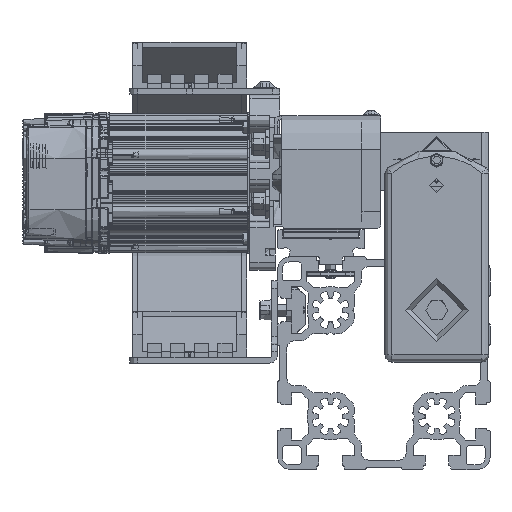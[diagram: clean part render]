
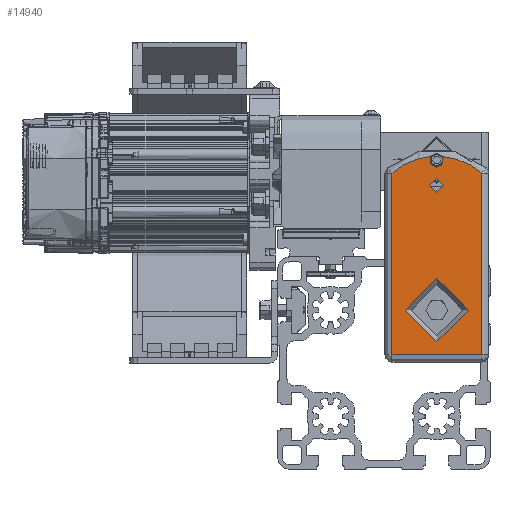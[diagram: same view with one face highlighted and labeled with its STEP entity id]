
A CAD part, front view. The second image highlights one B-rep face of the part: STEP entity #14940.
In plain terms, the highlighted planar face has unit normal (0, -1, 0).
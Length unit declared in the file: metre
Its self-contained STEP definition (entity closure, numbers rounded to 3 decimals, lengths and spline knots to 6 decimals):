
#14940 = ADVANCED_FACE( '', ( #32887, #32888, #32889 ), #32890, .T. );
#32887 = FACE_OUTER_BOUND( '', #81466, .T. );
#32888 = FACE_BOUND( '', #81467, .T. );
#32889 = FACE_BOUND( '', #81468, .T. );
#32890 = PLANE( '', #81469 );
#81466 = EDGE_LOOP( '', ( #152836, #152837, #152838, #152839, #152840, #152841 ) );
#81467 = EDGE_LOOP( '', ( #152842 ) );
#81468 = EDGE_LOOP( '', ( #152843 ) );
#81469 = AXIS2_PLACEMENT_3D( '', #152844, #152845, #152846 );
#152836 = ORIENTED_EDGE( '', *, *, #193683, .T. );
#152837 = ORIENTED_EDGE( '', *, *, #192709, .T. );
#152838 = ORIENTED_EDGE( '', *, *, #193686, .T. );
#152839 = ORIENTED_EDGE( '', *, *, #199848, .T. );
#152840 = ORIENTED_EDGE( '', *, *, #200365, .T. );
#152841 = ORIENTED_EDGE( '', *, *, #200366, .T. );
#152842 = ORIENTED_EDGE( '', *, *, #200367, .T. );
#152843 = ORIENTED_EDGE( '', *, *, #200368, .F. );
#152844 = CARTESIAN_POINT( '', ( -0.04064, -0.004762, -0.022 ) );
#152845 = DIRECTION( '', ( 0., -1., 0. ) );
#152846 = DIRECTION( '', ( 0., 0., -1. ) );
#192709 = EDGE_CURVE( '', #220325, #220326, #220328, .T. );
#193683 = EDGE_CURVE( '', #221914, #220325, #221915, .T. );
#193686 = EDGE_CURVE( '', #220326, #221917, #221919, .T. );
#199848 = EDGE_CURVE( '', #221917, #231452, #231454, .T. );
#200365 = EDGE_CURVE( '', #231452, #232187, #232188, .T. );
#200366 = EDGE_CURVE( '', #232187, #221914, #232189, .T. );
#200367 = EDGE_CURVE( '', #232190, #232190, #232191, .T. );
#200368 = EDGE_CURVE( '', #232192, #232192, #232193, .T. );
#220325 = VERTEX_POINT( '', #271144 );
#220326 = VERTEX_POINT( '', #271145 );
#220328 = CIRCLE( '', #271168, 0.003 );
#221914 = VERTEX_POINT( '', #274909 );
#221915 = CIRCLE( '', #274910, 0.02875 );
#221917 = VERTEX_POINT( '', #274912 );
#221919 = CIRCLE( '', #274914, 0.02875 );
#231452 = VERTEX_POINT( '', #298231 );
#231454 = LINE( '', #298233, #298234 );
#232187 = VERTEX_POINT( '', #300062 );
#232188 = LINE( '', #300063, #300064 );
#232189 = LINE( '', #300065, #300066 );
#232190 = VERTEX_POINT( '', #300067 );
#232191 = CIRCLE( '', #300068, 0.003 );
#232192 = VERTEX_POINT( '', #300069 );
#232193 = CIRCLE( '', #300070, 0.01344 );
#271144 = CARTESIAN_POINT( '', ( -0.046381, -0.004763, 0.002586 ) );
#271145 = CARTESIAN_POINT( '', ( -0.046381, -0.004763, -0.002586 ) );
#271168 = AXIS2_PLACEMENT_3D( '', #339137, #339138, #339139 );
#274909 = CARTESIAN_POINT( '', ( -0.039324, -0.004763, 0.019 ) );
#274910 = AXIS2_PLACEMENT_3D( '', #340389, #340390, #340391 );
#274912 = CARTESIAN_POINT( '', ( -0.039324, -0.004763, -0.019 ) );
#274914 = AXIS2_PLACEMENT_3D( '', #340398, #340399, #340400 );
#298231 = CARTESIAN_POINT( '', ( 0.03764, -0.004763, -0.019 ) );
#298233 = CARTESIAN_POINT( '', ( 0.03764, -0.004763, -0.019 ) );
#298234 = VECTOR( '', #348469, 1. );
#300062 = CARTESIAN_POINT( '', ( 0.03764, -0.004763, 0.019 ) );
#300063 = CARTESIAN_POINT( '', ( 0.03764, -0.004763, 0.019 ) );
#300064 = VECTOR( '', #349128, 1. );
#300065 = CARTESIAN_POINT( '', ( -0.039324, -0.004763, 0.019 ) );
#300066 = VECTOR( '', #349129, 1. );
#300067 = CARTESIAN_POINT( '', ( -0.03729, -0.004762, 0. ) );
#300068 = AXIS2_PLACEMENT_3D( '', #349130, #349131, #349132 );
#300069 = CARTESIAN_POINT( '', ( 0.03208, -0.004763, 0. ) );
#300070 = AXIS2_PLACEMENT_3D( '', #349133, #349134, #349135 );
#339137 = CARTESIAN_POINT( '', ( -0.04486, -0.004763, 0. ) );
#339138 = DIRECTION( '', ( 0., 1., 0. ) );
#339139 = DIRECTION( '', ( -1., 0., 0. ) );
#340389 = CARTESIAN_POINT( '', ( -0.017748, -0.004762, 0. ) );
#340390 = DIRECTION( '', ( 0., -1., 0. ) );
#340391 = DIRECTION( '', ( 1., 0., 0. ) );
#340398 = CARTESIAN_POINT( '', ( -0.017748, -0.004762, 0. ) );
#340399 = DIRECTION( '', ( 0., -1., 0. ) );
#340400 = DIRECTION( '', ( 1., 0., 0. ) );
#348469 = DIRECTION( '', ( 1., 0., 0. ) );
#349128 = DIRECTION( '', ( 0., 0., 1. ) );
#349129 = DIRECTION( '', ( -1., 0., 0. ) );
#349130 = CARTESIAN_POINT( '', ( -0.03429, -0.004762, 0. ) );
#349131 = DIRECTION( '', ( 0., 1., 0. ) );
#349132 = DIRECTION( '', ( -1., 0., 0. ) );
#349133 = CARTESIAN_POINT( '', ( 0.01864, -0.004763, 0. ) );
#349134 = DIRECTION( '', ( 0., -1., 0. ) );
#349135 = DIRECTION( '', ( 1., 0., 0. ) );
